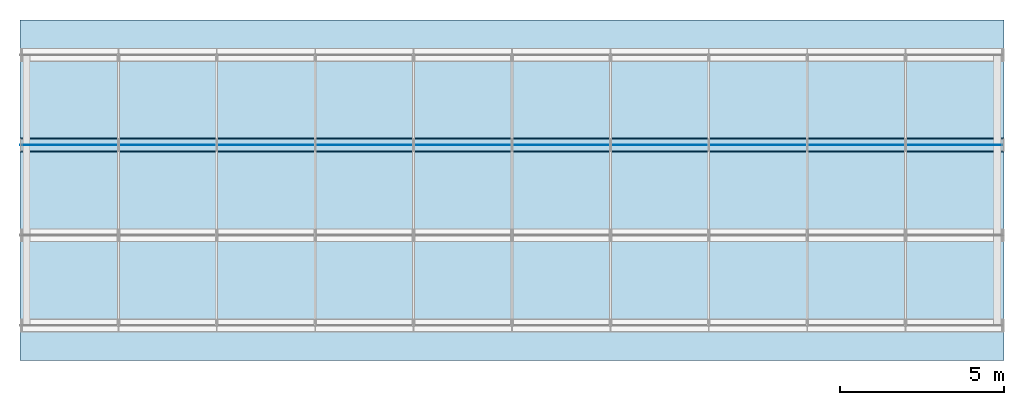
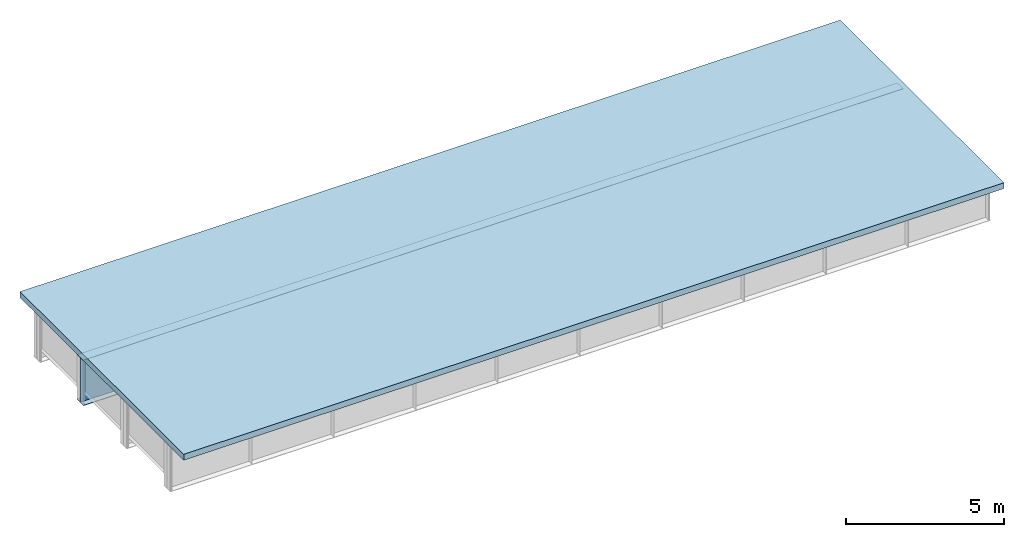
# One storey, part 7 of 11: 3 plates, 1 slab.
"""IFC4 building model written with IfcOpenShell, lengths in metres."""

from ifc_helpers import new_model, si_unit, frame, origin, origin_with_axes, origin_2d_with_axis, place, context, subcontext, project, spatial, polyline, rectangle, outline, extrude, element, save


model = new_model("IFC4")

# Units and contexts
model_context = context("Model", 3, precision=1e-05, world=origin())
body_context = subcontext(model_context, "Body", "Model", "MODEL_VIEW")
ifc_project = project(units=[si_unit("LENGTHUNIT", "METRE"), si_unit("AREAUNIT", "SQUARE_METRE"), si_unit("VOLUMEUNIT", "CUBIC_METRE"), si_unit("PLANEANGLEUNIT", "RADIAN")], contexts=[model_context])

# Site, building, storey
site_placement = place(None, origin_with_axes())
site = spatial("IfcSite", under=ifc_project, at=site_placement, Name="Default Site")
building_placement = place(site_placement, origin_with_axes())
building = spatial("IfcBuilding", under=site, at=building_placement, Name="Bridge Structure")
storey_placement = place(building_placement, origin_with_axes())
storey = spatial("IfcBuildingStorey", under=building, at=storey_placement, Name="Superstructure")

# Plates
plate_1_placement = place(storey_placement, frame((0.0, 1.375, 0.0), z_axis=(1.0, 0.0, 0.0), x_axis=(0.0, 1.0, 0.0)))
element("IfcPlate", 1, at=plate_1_placement, inside=storey, Name="Girder Web 3", context=body_context, shape_type="SweptSolid", body=[
    extrude(rectangle(XDim=0.018000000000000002, YDim=1.71, at=origin_2d_with_axis()), origin_with_axes(), (0.0, 0.0, 1.0), 30.0),
])
plate_2_placement = place(storey_placement, frame((0.0, 1.375, 0.864), z_axis=(1.0, 0.0, 0.0), x_axis=(0.0, 1.0, 0.0)))
element("IfcPlate", 2, at=plate_2_placement, inside=storey, Name="Top Flange 3", context=body_context, shape_type="SweptSolid", body=[
    extrude(rectangle(XDim=0.375, YDim=0.018000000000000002, at=origin_2d_with_axis()), origin_with_axes(), (0.0, 0.0, 1.0), 30.0),
])
plate_3_placement = place(storey_placement, frame((0.0, 1.375, -0.866), z_axis=(1.0, 0.0, 0.0), x_axis=(0.0, 1.0, 0.0)))
element("IfcPlate", 3, at=plate_3_placement, inside=storey, Name="Bottom Flange 3", context=body_context, shape_type="SweptSolid", body=[
    extrude(rectangle(XDim=0.425, YDim=0.022, at=origin_2d_with_axis()), origin_with_axes(), (0.0, 0.0, 1.0), 30.0),
])

# Slab
slab_placement = place(storey_placement, frame((0.0, 0.0, 0.873), z_axis=(0.0, 0.0, 1.0), x_axis=(1.0, 0.0, 0.0)))
element("IfcSlab", 4, at=slab_placement, inside=storey, Name="Deck Slab", context=body_context, shape_type="SweptSolid", body=[
    extrude(outline(polyline([(0.0, -5.1875), (30.0, -5.1875), (30.0, 5.1875), (0.0, 5.1875), (0.0, -5.1875)])), origin_with_axes(), (0.0, 0.0, 1.0), 0.23),
])

save(model, "model.ifc")
